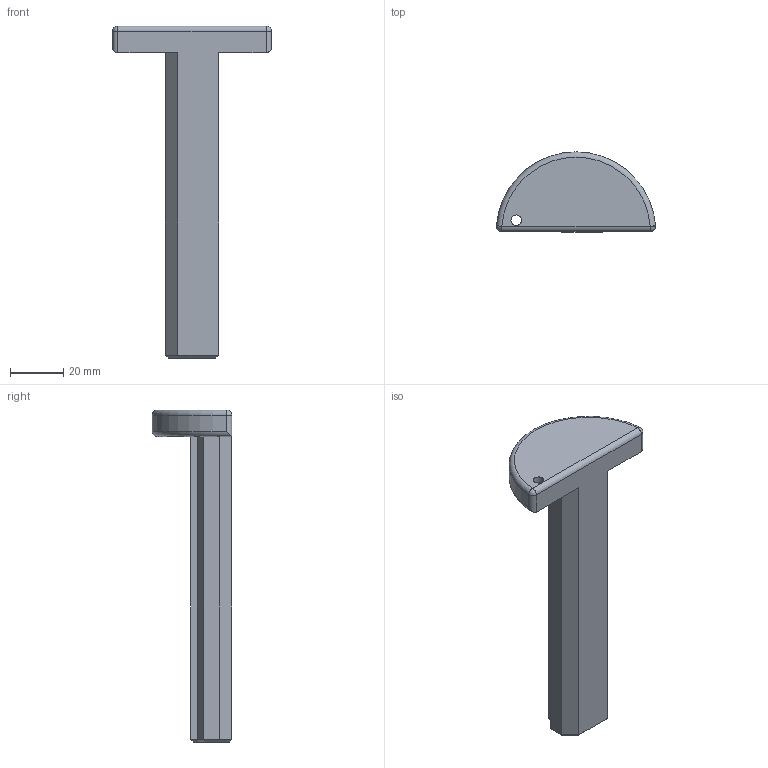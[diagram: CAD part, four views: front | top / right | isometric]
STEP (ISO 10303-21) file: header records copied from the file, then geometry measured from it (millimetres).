
FILE_DESCRIPTION (( 'STEP AP214' ), '1' );
FILE_NAME ('wago222pusherv1.STEP', '2024-12-16T23:24:40', ( '' ), ( '' ), 'SwSTEP 2.0', 'SolidWorks 2020', '' );
FILE_SCHEMA (( 'AUTOMOTIVE_DESIGN' ));
Length unit declared in the file: millimetre
Products named in the file (1): wago222pusherv1
Bounding box: 59.86 x 30 x 125 mm (x, y, z)
Volume: 38279.3 mm3; surface area: 11981.8 mm2
Topology: 1 solids, 1 shells, 138 faces, 361 edges, 234 vertices
Faces by surface type: plane 105, bspline 21, cylinder 7, sphere 3, torus 2
Entity records: 5455 total; most frequent: CARTESIAN_POINT 2168, ORIENTED_EDGE 718, DIRECTION 569, EDGE_CURVE 359, VECTOR 295, LINE 295, VERTEX_POINT 234, EDGE_LOOP 151
